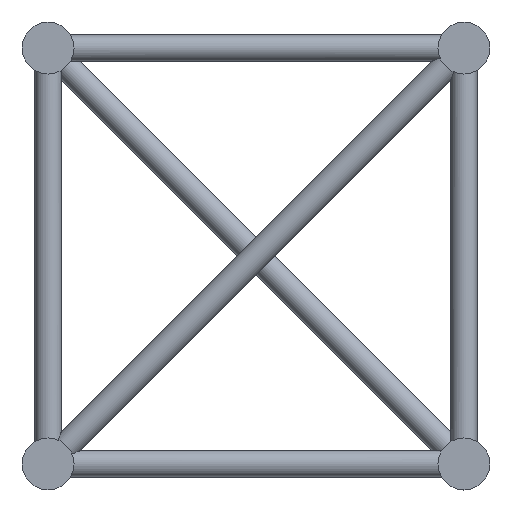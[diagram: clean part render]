
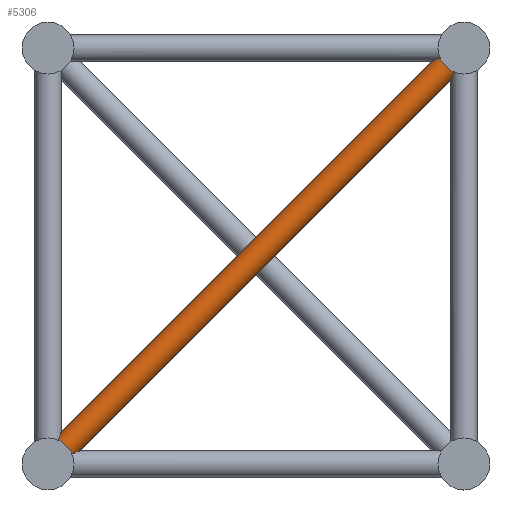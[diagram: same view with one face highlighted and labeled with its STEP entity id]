
A CAD part, left-side view. The second image highlights one B-rep face of the part: STEP entity #5306.
In plain terms, the highlighted cylindrical face has radius 15 mm (diameter 30 mm), a full revolution.
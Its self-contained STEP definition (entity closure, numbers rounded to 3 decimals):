
#682=FACE_BOUND('',#1224,.T.);
#885=FACE_OUTER_BOUND('',#1223,.T.);
#1223=EDGE_LOOP('',(#3423,#3424,#3425,#3426,#3427,#3428));
#1224=EDGE_LOOP('',(#3429,#3430,#3431,#3432,#3433,#3434));
#1765=CIRCLE('',#5672,15.);
#1766=CIRCLE('',#5673,15.);
#1767=CIRCLE('',#5675,15.);
#1768=CIRCLE('',#5676,15.);
#1769=CIRCLE('',#5678,15.);
#1770=CIRCLE('',#5679,15.);
#1771=CIRCLE('',#5681,15.);
#1772=CIRCLE('',#5682,15.);
#2039=ELLIPSE('',#5671,39.197,15.);
#2040=ELLIPSE('',#5674,39.197,15.);
#2041=ELLIPSE('',#5677,39.197,15.);
#2042=ELLIPSE('',#5680,39.197,15.);
#2199=VERTEX_POINT('',#8137);
#2200=VERTEX_POINT('',#8138);
#2201=VERTEX_POINT('',#8140);
#2202=VERTEX_POINT('',#8142);
#2203=VERTEX_POINT('',#8144);
#2204=VERTEX_POINT('',#8146);
#2205=VERTEX_POINT('',#8149);
#2206=VERTEX_POINT('',#8150);
#2207=VERTEX_POINT('',#8152);
#2208=VERTEX_POINT('',#8154);
#2209=VERTEX_POINT('',#8156);
#2210=VERTEX_POINT('',#8158);
#2691=EDGE_CURVE('',#2199,#2200,#2039,.T.);
#2692=EDGE_CURVE('',#2201,#2199,#1765,.T.);
#2693=EDGE_CURVE('',#2202,#2201,#1766,.T.);
#2694=EDGE_CURVE('',#2203,#2202,#2040,.T.);
#2695=EDGE_CURVE('',#2204,#2203,#1767,.T.);
#2696=EDGE_CURVE('',#2200,#2204,#1768,.T.);
#2697=EDGE_CURVE('',#2205,#2206,#2041,.T.);
#2698=EDGE_CURVE('',#2207,#2205,#1769,.T.);
#2699=EDGE_CURVE('',#2208,#2207,#1770,.T.);
#2700=EDGE_CURVE('',#2209,#2208,#2042,.T.);
#2701=EDGE_CURVE('',#2210,#2209,#1771,.T.);
#2702=EDGE_CURVE('',#2206,#2210,#1772,.T.);
#3423=ORIENTED_EDGE('',*,*,#2691,.F.);
#3424=ORIENTED_EDGE('',*,*,#2692,.F.);
#3425=ORIENTED_EDGE('',*,*,#2693,.F.);
#3426=ORIENTED_EDGE('',*,*,#2694,.F.);
#3427=ORIENTED_EDGE('',*,*,#2695,.F.);
#3428=ORIENTED_EDGE('',*,*,#2696,.F.);
#3429=ORIENTED_EDGE('',*,*,#2697,.F.);
#3430=ORIENTED_EDGE('',*,*,#2698,.F.);
#3431=ORIENTED_EDGE('',*,*,#2699,.F.);
#3432=ORIENTED_EDGE('',*,*,#2700,.F.);
#3433=ORIENTED_EDGE('',*,*,#2701,.F.);
#3434=ORIENTED_EDGE('',*,*,#2702,.F.);
#4864=CYLINDRICAL_SURFACE('',#5670,15.);
#5306=ADVANCED_FACE('',(#885,#682),#4864,.T.);
#5670=AXIS2_PLACEMENT_3D('',#8136,#6482,#6483);
#5671=AXIS2_PLACEMENT_3D('',#8139,#6484,#6485);
#5672=AXIS2_PLACEMENT_3D('',#8141,#6486,#6487);
#5673=AXIS2_PLACEMENT_3D('',#8143,#6488,#6489);
#5674=AXIS2_PLACEMENT_3D('',#8145,#6490,#6491);
#5675=AXIS2_PLACEMENT_3D('',#8147,#6492,#6493);
#5676=AXIS2_PLACEMENT_3D('',#8148,#6494,#6495);
#5677=AXIS2_PLACEMENT_3D('',#8151,#6496,#6497);
#5678=AXIS2_PLACEMENT_3D('',#8153,#6498,#6499);
#5679=AXIS2_PLACEMENT_3D('',#8155,#6500,#6501);
#5680=AXIS2_PLACEMENT_3D('',#8157,#6502,#6503);
#5681=AXIS2_PLACEMENT_3D('',#8159,#6504,#6505);
#5682=AXIS2_PLACEMENT_3D('',#8160,#6506,#6507);
#6482=DIRECTION('center_axis',(0.,-0.707,
0.707));
#6483=DIRECTION('ref_axis',(0.,-0.707,-0.707));
#6484=DIRECTION('center_axis',(0.,-0.924,
-0.383));
#6485=DIRECTION('ref_axis',(0.,0.383,-0.924));
#6486=DIRECTION('center_axis',(0.,-0.707,0.707));
#6487=DIRECTION('ref_axis',(0.,-0.707,-0.707));
#6488=DIRECTION('center_axis',(0.,-0.707,0.707));
#6489=DIRECTION('ref_axis',(0.,-0.707,-0.707));
#6490=DIRECTION('center_axis',(0.,0.383,0.924));
#6491=DIRECTION('ref_axis',(0.,-0.924,0.383));
#6492=DIRECTION('center_axis',(0.,-0.707,0.707));
#6493=DIRECTION('ref_axis',(0.,-0.707,-0.707));
#6494=DIRECTION('center_axis',(0.,-0.707,0.707));
#6495=DIRECTION('ref_axis',(0.,-0.707,-0.707));
#6496=DIRECTION('center_axis',(0.,0.924,0.383));
#6497=DIRECTION('ref_axis',(0.,0.383,-0.924));
#6498=DIRECTION('center_axis',(0.,0.707,-0.707));
#6499=DIRECTION('ref_axis',(0.,-0.707,-0.707));
#6500=DIRECTION('center_axis',(0.,0.707,-0.707));
#6501=DIRECTION('ref_axis',(0.,-0.707,-0.707));
#6502=DIRECTION('center_axis',(0.,-0.383,-0.924));
#6503=DIRECTION('ref_axis',(0.,-0.924,0.383));
#6504=DIRECTION('center_axis',(0.,0.707,-0.707));
#6505=DIRECTION('ref_axis',(0.,-0.707,-0.707));
#6506=DIRECTION('center_axis',(0.,0.707,-0.707));
#6507=DIRECTION('ref_axis',(0.,-0.707,-0.707));
#8136=CARTESIAN_POINT('Origin',(95.,452.322,-452.322));
#8137=CARTESIAN_POINT('',(84.148,10.356,-25.));
#8138=CARTESIAN_POINT('',(105.852,10.356,-25.));
#8139=CARTESIAN_POINT('Origin',(95.,0.,0.));
#8140=CARTESIAN_POINT('',(80.,17.678,-17.678));
#8141=CARTESIAN_POINT('Origin',(95.,17.678,-17.678));
#8142=CARTESIAN_POINT('',(84.148,25.,-10.355));
#8143=CARTESIAN_POINT('Origin',(95.,17.678,-17.678));
#8144=CARTESIAN_POINT('',(105.852,25.,-10.355));
#8145=CARTESIAN_POINT('Origin',(95.,0.,0.));
#8146=CARTESIAN_POINT('',(110.,17.678,-17.678));
#8147=CARTESIAN_POINT('Origin',(95.,17.678,-17.678));
#8148=CARTESIAN_POINT('Origin',(95.,17.678,-17.678));
#8149=CARTESIAN_POINT('',(84.148,459.645,-445.));
#8150=CARTESIAN_POINT('',(105.852,459.645,-445.));
#8151=CARTESIAN_POINT('Origin',(95.,470.,-470.));
#8152=CARTESIAN_POINT('',(80.,452.322,-452.322));
#8153=CARTESIAN_POINT('Origin',(95.,452.322,-452.322));
#8154=CARTESIAN_POINT('',(84.148,445.,-459.645));
#8155=CARTESIAN_POINT('Origin',(95.,452.322,-452.322));
#8156=CARTESIAN_POINT('',(105.852,445.,-459.645));
#8157=CARTESIAN_POINT('Origin',(95.,470.,-470.));
#8158=CARTESIAN_POINT('',(110.,452.322,-452.322));
#8159=CARTESIAN_POINT('Origin',(95.,452.322,-452.322));
#8160=CARTESIAN_POINT('Origin',(95.,452.322,-452.322));
